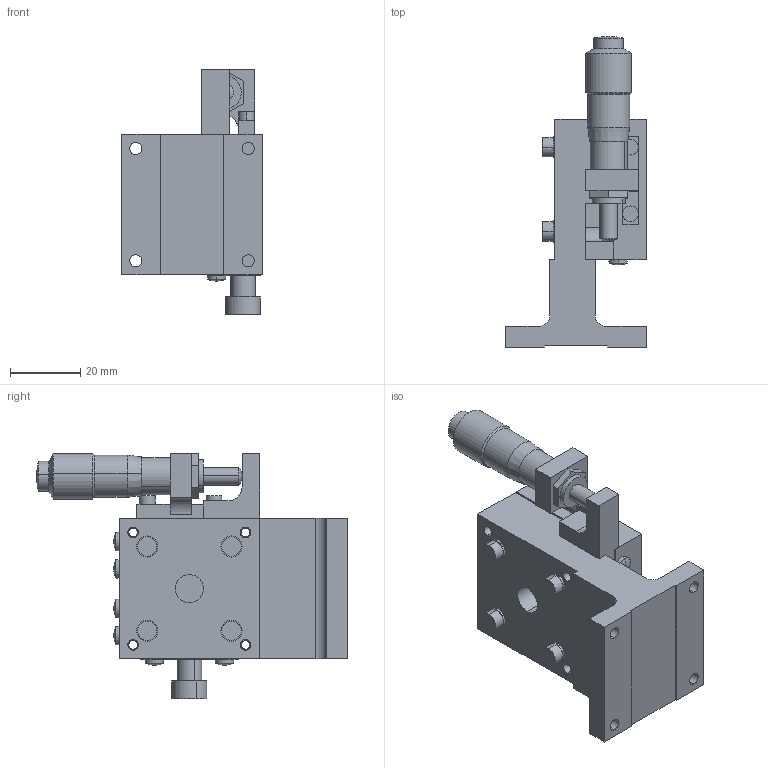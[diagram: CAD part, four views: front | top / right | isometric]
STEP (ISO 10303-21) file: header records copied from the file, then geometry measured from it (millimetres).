
FILE_DESCRIPTION (( 'STEP AP214' ), '1' );
FILE_NAME ('LZ‐4041‐SR1.STEP', '2007-08-30T10:09:45', ( '' ), ( '' ), 'SwSTEP 2.0', 'SolidWorks 2006303', '' );
FILE_SCHEMA (( 'AUTOMOTIVE_DESIGN' ));
Length unit declared in the file: millimetre
Products named in the file (3): LZ40R100－1_ﾃﾞﾌｫﾙﾄ; LZ40R100－2_ﾃﾞﾌｫﾙﾄ; LZ‐4041‐SR1
Assembly tree (2 placements, depth 2):
  LZ‐4041‐SR1
    LZ40R100－1_ﾃﾞﾌｫﾙﾄ
    LZ40R100－2_ﾃﾞﾌｫﾙﾄ
Bounding box: 40 x 88.5 x 69.8 mm (x, y, z)
Volume: 64818.6 mm3; surface area: 26995.1 mm2
Topology: 3 solids, 9 shells, 338 faces, 795 edges, 509 vertices
Faces by surface type: cylinder 145, plane 143, cone 26, sphere 22, torus 2
Entity records: 9926 total; most frequent: DIRECTION 1869, CARTESIAN_POINT 1645, ORIENTED_EDGE 1586, EDGE_CURVE 793, AXIS2_PLACEMENT_3D 733, VERTEX_POINT 509, EDGE_LOOP 418, VECTOR 403
